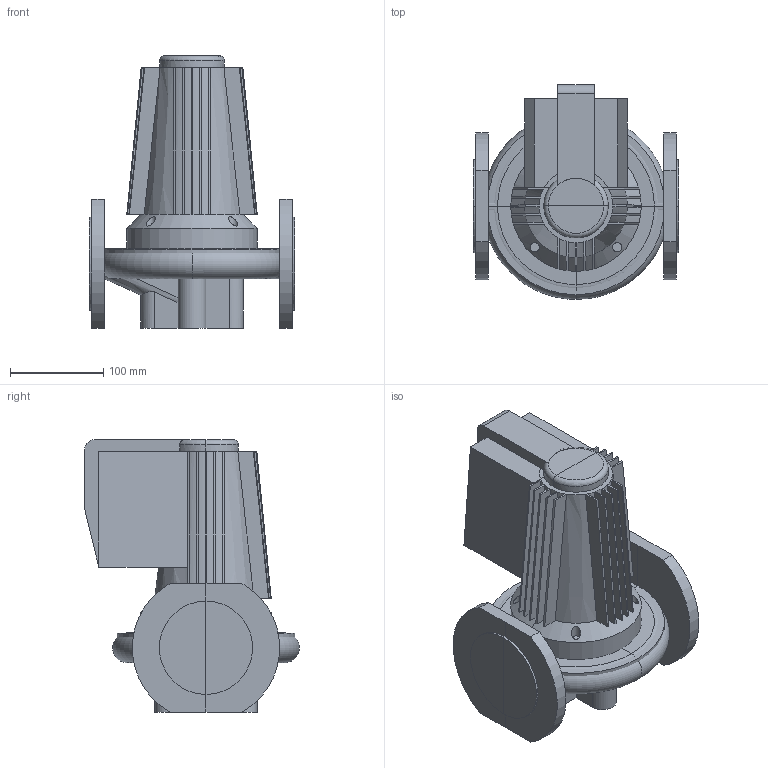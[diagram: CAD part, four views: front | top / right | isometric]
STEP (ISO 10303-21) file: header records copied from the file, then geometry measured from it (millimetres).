
FILE_DESCRIPTION(/* description */ (''),/* implementation_level */ '2;1');
FILE_NAME(/* name */ 'C:\Users\a.zyazeva\Desktop\Wellmix\TG TD WRE WRS\WRS 32-90 SF.stp',/* time_stamp */ '2024-08-28T00:13:30+03:00',/* author */ ('a.zyazeva'),/* organization */ (''),/* preprocessor_version */ 'ST-DEVELOPER v18.1',/* originating_system */ 'Autodesk Inventor 2022',/* authorisation */ '');
FILE_SCHEMA (('AUTOMOTIVE_DESIGN { 1 0 10303 214 3 1 1 }'));
Length unit declared in the file: millimetre
Products named in the file (1): WRS 32-90 SF
Bounding box: 220 x 230 x 292 mm (x, y, z)
Volume: 5552898.5 mm3; surface area: 548988.6 mm2
Topology: 6 solids, 6 shells, 171 faces, 425 edges, 267 vertices
Faces by surface type: plane 103, cylinder 30, cone 17, bspline 16, torus 5
Entity records: 6363 total; most frequent: CARTESIAN_POINT 2476, ORIENTED_EDGE 850, DIRECTION 724, EDGE_CURVE 425, VERTEX_POINT 267, AXIS2_PLACEMENT_3D 260, LINE 204, VECTOR 204
